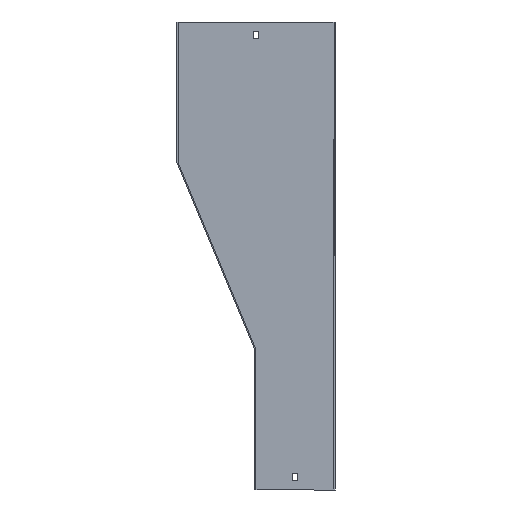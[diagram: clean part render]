
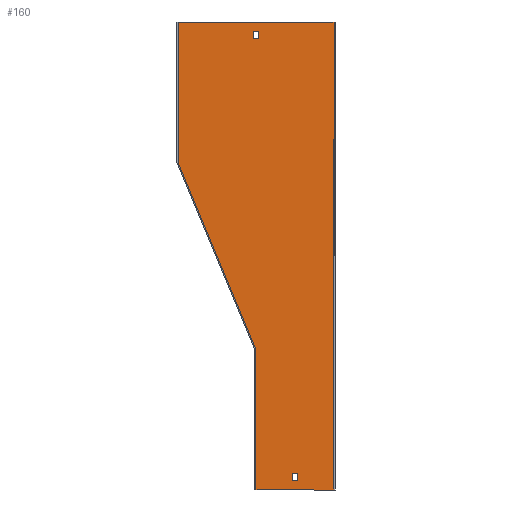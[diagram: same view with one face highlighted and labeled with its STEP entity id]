
A CAD part, front view. The second image highlights one B-rep face of the part: STEP entity #160.
In plain terms, the highlighted planar face has unit normal (0, -1, 0).
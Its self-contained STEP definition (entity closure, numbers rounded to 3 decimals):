
#6 = CARTESIAN_POINT ( 'NONE',  ( 3.25, -1.5, 0. ) ) ;
#21 = CARTESIAN_POINT ( 'NONE',  ( 0., -1.5, -419.7 ) ) ;
#22 = ORIENTED_EDGE ( 'NONE', *, *, #79, .F. ) ;
#23 = VECTOR ( 'NONE', #541, 1000. ) ;
#25 = VERTEX_POINT ( 'NONE', #37 ) ;
#27 = LINE ( 'NONE', #198, #140 ) ;
#37 = CARTESIAN_POINT ( 'NONE',  ( 53.25, -1.5, -588. ) ) ;
#43 = ORIENTED_EDGE ( 'NONE', *, *, #598, .F. ) ;
#44 = CARTESIAN_POINT ( 'NONE',  ( 0., -1.5, -579. ) ) ;
#48 = ORIENTED_EDGE ( 'NONE', *, *, #644, .F. ) ;
#50 = EDGE_CURVE ( 'NONE', #107, #693, #453, .T. ) ;
#51 = VECTOR ( 'NONE', #489, 1000. ) ;
#70 = CARTESIAN_POINT ( 'NONE',  ( 46.75, -1.5, -588. ) ) ;
#76 = DIRECTION ( 'NONE',  ( 0., 0., 1. ) ) ;
#77 = DIRECTION ( 'NONE',  ( 0., 0., 1. ) ) ;
#79 = EDGE_CURVE ( 'NONE', #668, #411, #563, .T. ) ;
#85 = AXIS2_PLACEMENT_3D ( 'NONE', #119, #626, #123 ) ;
#93 = DIRECTION ( 'NONE',  ( 1., 0., 0. ) ) ;
#94 = LINE ( 'NONE', #533, #23 ) ;
#95 = ORIENTED_EDGE ( 'NONE', *, *, #50, .F. ) ;
#104 = ORIENTED_EDGE ( 'NONE', *, *, #686, .F. ) ;
#107 = VERTEX_POINT ( 'NONE', #402 ) ;
#111 = VERTEX_POINT ( 'NONE', #680 ) ;
#116 = FACE_BOUND ( 'NONE', #131, .T. ) ;
#119 = CARTESIAN_POINT ( 'NONE',  ( 0., -1.5, 0. ) ) ;
#123 = DIRECTION ( 'NONE',  ( 0., 0., -1. ) ) ;
#125 = VECTOR ( 'NONE', #655, 1000. ) ;
#129 = FACE_OUTER_BOUND ( 'NONE', #295, .T. ) ;
#131 = EDGE_LOOP ( 'NONE', ( #200, #372, #95, #305 ) ) ;
#132 = CARTESIAN_POINT ( 'NONE',  ( -3.25, -1.5, 0. ) ) ;
#140 = VECTOR ( 'NONE', #484, 1000. ) ;
#142 = VECTOR ( 'NONE', #545, 1000. ) ;
#159 = CARTESIAN_POINT ( 'NONE',  ( 100., -1.5, 0. ) ) ;
#160 = ADVANCED_FACE ( 'NONE', ( #303, #116, #129 ), #405, .T. ) ;
#188 = DIRECTION ( 'NONE',  ( 0., 0., 1. ) ) ;
#193 = LINE ( 'NONE', #633, #424 ) ;
#196 = ORIENTED_EDGE ( 'NONE', *, *, #236, .F. ) ;
#198 = CARTESIAN_POINT ( 'NONE',  ( 46.75, -1.5, 0. ) ) ;
#200 = ORIENTED_EDGE ( 'NONE', *, *, #217, .F. ) ;
#203 = EDGE_CURVE ( 'NONE', #679, #380, #193, .T. ) ;
#204 = DIRECTION ( 'NONE',  ( -1., 0., 0. ) ) ;
#206 = VECTOR ( 'NONE', #365, 1000. ) ;
#212 = VERTEX_POINT ( 'NONE', #430 ) ;
#217 = EDGE_CURVE ( 'NONE', #662, #212, #702, .T. ) ;
#236 = EDGE_CURVE ( 'NONE', #411, #679, #640, .T. ) ;
#259 = CARTESIAN_POINT ( 'NONE',  ( 0., -1.5, -21. ) ) ;
#277 = CARTESIAN_POINT ( 'NONE',  ( -100., -1.5, -179.7 ) ) ;
#281 = ORIENTED_EDGE ( 'NONE', *, *, #330, .F. ) ;
#284 = ORIENTED_EDGE ( 'NONE', *, *, #203, .F. ) ;
#286 = VECTOR ( 'NONE', #76, 1000. ) ;
#295 = EDGE_LOOP ( 'NONE', ( #196, #22, #301, #454, #104, #284 ) ) ;
#301 = ORIENTED_EDGE ( 'NONE', *, *, #556, .F. ) ;
#303 = FACE_BOUND ( 'NONE', #333, .T. ) ;
#305 = ORIENTED_EDGE ( 'NONE', *, *, #473, .F. ) ;
#330 = EDGE_CURVE ( 'NONE', #111, #654, #387, .T. ) ;
#332 = DIRECTION ( 'NONE',  ( 0., 0., 1. ) ) ;
#333 = EDGE_LOOP ( 'NONE', ( #43, #281, #444, #48 ) ) ;
#340 = CARTESIAN_POINT ( 'NONE',  ( 53.25, -1.5, 0. ) ) ;
#365 = DIRECTION ( 'NONE',  ( 0., 0., -1. ) ) ;
#367 = VERTEX_POINT ( 'NONE', #70 ) ;
#372 = ORIENTED_EDGE ( 'NONE', *, *, #508, .F. ) ;
#374 = CARTESIAN_POINT ( 'NONE',  ( 0., -1.5, -12. ) ) ;
#380 = VERTEX_POINT ( 'NONE', #513 ) ;
#387 = LINE ( 'NONE', #44, #142 ) ;
#388 = LINE ( 'NONE', #340, #539 ) ;
#394 = VECTOR ( 'NONE', #77, 1000. ) ;
#402 = CARTESIAN_POINT ( 'NONE',  ( 3.25, -1.5, -21. ) ) ;
#405 = PLANE ( 'NONE',  #85 ) ;
#411 = VERTEX_POINT ( 'NONE', #579 ) ;
#424 = VECTOR ( 'NONE', #491, 1000. ) ;
#430 = CARTESIAN_POINT ( 'NONE',  ( -3.25, -1.5, -21. ) ) ;
#431 = LINE ( 'NONE', #259, #51 ) ;
#444 = ORIENTED_EDGE ( 'NONE', *, *, #678, .F. ) ;
#451 = CARTESIAN_POINT ( 'NONE',  ( 46.75, -1.5, -579. ) ) ;
#453 = LINE ( 'NONE', #6, #459 ) ;
#454 = ORIENTED_EDGE ( 'NONE', *, *, #470, .F. ) ;
#459 = VECTOR ( 'NONE', #188, 1000. ) ;
#470 = EDGE_CURVE ( 'NONE', #495, #546, #669, .T. ) ;
#473 = EDGE_CURVE ( 'NONE', #212, #107, #431, .T. ) ;
#484 = DIRECTION ( 'NONE',  ( 0., 0., -1. ) ) ;
#489 = DIRECTION ( 'NONE',  ( 1., 0., 0. ) ) ;
#491 = DIRECTION ( 'NONE',  ( 0., 0., -1. ) ) ;
#495 = VERTEX_POINT ( 'NONE', #692 ) ;
#508 = EDGE_CURVE ( 'NONE', #693, #662, #587, .T. ) ;
#513 = CARTESIAN_POINT ( 'NONE',  ( 100., -1.5, -600. ) ) ;
#516 = CARTESIAN_POINT ( 'NONE',  ( 0., -1.5, -420. ) ) ;
#519 = VECTOR ( 'NONE', #93, 1000. ) ;
#533 = CARTESIAN_POINT ( 'NONE',  ( -100.115, -1.5, -179.423 ) ) ;
#539 = VECTOR ( 'NONE', #332, 1000. ) ;
#541 = DIRECTION ( 'NONE',  ( -0.385, 0., 0.923 ) ) ;
#545 = DIRECTION ( 'NONE',  ( -1., 0., 0. ) ) ;
#546 = VERTEX_POINT ( 'NONE', #21 ) ;
#548 = LINE ( 'NONE', #715, #719 ) ;
#552 = LINE ( 'NONE', #652, #125 ) ;
#556 = EDGE_CURVE ( 'NONE', #546, #668, #94, .T. ) ;
#563 = LINE ( 'NONE', #619, #286 ) ;
#579 = CARTESIAN_POINT ( 'NONE',  ( -100., -1.5, 0. ) ) ;
#587 = LINE ( 'NONE', #374, #618 ) ;
#598 = EDGE_CURVE ( 'NONE', #654, #367, #27, .T. ) ;
#600 = CARTESIAN_POINT ( 'NONE',  ( -3.25, -1.5, -12. ) ) ;
#604 = CARTESIAN_POINT ( 'NONE',  ( 3.25, -1.5, -12. ) ) ;
#618 = VECTOR ( 'NONE', #204, 1000. ) ;
#619 = CARTESIAN_POINT ( 'NONE',  ( -100., -1.5, 0. ) ) ;
#626 = DIRECTION ( 'NONE',  ( 0., -1., 0. ) ) ;
#633 = CARTESIAN_POINT ( 'NONE',  ( 100., -1.5, -600. ) ) ;
#640 = LINE ( 'NONE', #687, #519 ) ;
#644 = EDGE_CURVE ( 'NONE', #367, #25, #552, .T. ) ;
#652 = CARTESIAN_POINT ( 'NONE',  ( 0., -1.5, -588. ) ) ;
#654 = VERTEX_POINT ( 'NONE', #451 ) ;
#655 = DIRECTION ( 'NONE',  ( 1., 0., 0. ) ) ;
#662 = VERTEX_POINT ( 'NONE', #600 ) ;
#668 = VERTEX_POINT ( 'NONE', #277 ) ;
#669 = LINE ( 'NONE', #516, #394 ) ;
#678 = EDGE_CURVE ( 'NONE', #25, #111, #388, .T. ) ;
#679 = VERTEX_POINT ( 'NONE', #159 ) ;
#680 = CARTESIAN_POINT ( 'NONE',  ( 53.25, -1.5, -579. ) ) ;
#686 = EDGE_CURVE ( 'NONE', #380, #495, #548, .T. ) ;
#687 = CARTESIAN_POINT ( 'NONE',  ( 101.5, -1.5, 0. ) ) ;
#692 = CARTESIAN_POINT ( 'NONE',  ( 0., -1.5, -600. ) ) ;
#693 = VERTEX_POINT ( 'NONE', #604 ) ;
#702 = LINE ( 'NONE', #132, #206 ) ;
#715 = CARTESIAN_POINT ( 'NONE',  ( -1.5, -1.5, -600. ) ) ;
#717 = DIRECTION ( 'NONE',  ( -1., 0., 0. ) ) ;
#719 = VECTOR ( 'NONE', #717, 1000. ) ;
